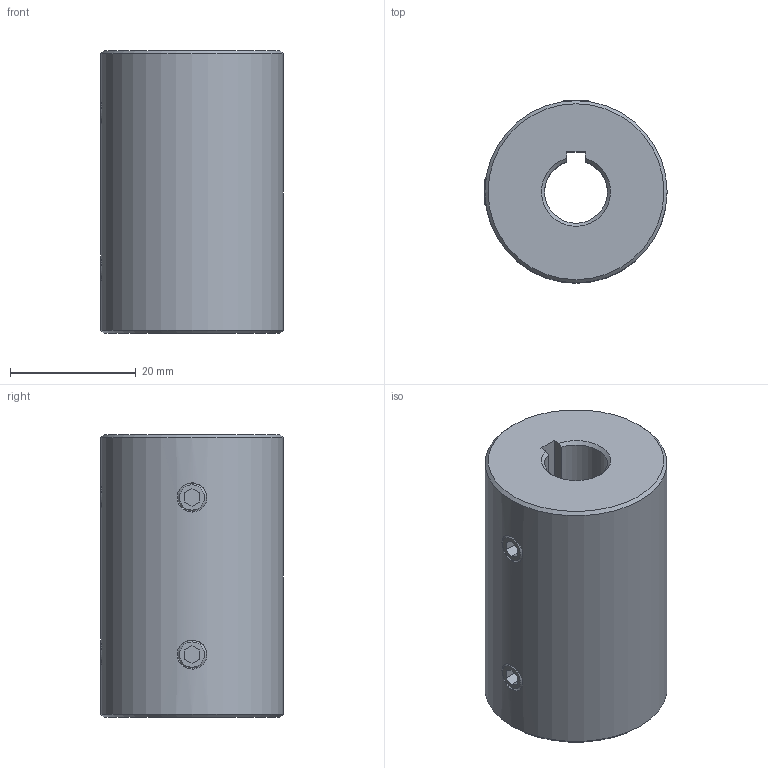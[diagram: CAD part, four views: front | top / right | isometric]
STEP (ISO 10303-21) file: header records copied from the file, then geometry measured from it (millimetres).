
FILE_DESCRIPTION (( 'STEP AP214' ), '1' );
FILE_NAME ('KBST1-VA-N10.STEP', '2025-07-29T07:29:51', ( '' ), ( '' ), 'SwSTEP 2.0', 'SolidWorks 2024', '' );
FILE_SCHEMA (( 'AUTOMOTIVE_DESIGN' ));
Length unit declared in the file: millimetre
Products named in the file (1): KBST1-VA-N10
Bounding box: 29 x 29 x 45 mm (x, y, z)
Volume: 25806.9 mm3; surface area: 7785.9 mm2
Topology: 5 solids, 5 shells, 89 faces, 213 edges, 128 vertices
Faces by surface type: plane 43, cone 28, cylinder 14, bspline 4
Full cylindrical faces by diameter (mm): 4.2 x4, 29 x1
Entity records: 7806 total; most frequent: CARTESIAN_POINT 4802, DIRECTION 390, ORIENTED_EDGE 384, EDGE_CURVE 192, LINE 130, AXIS2_PLACEMENT_3D 130, VECTOR 130, VERTEX_POINT 126
